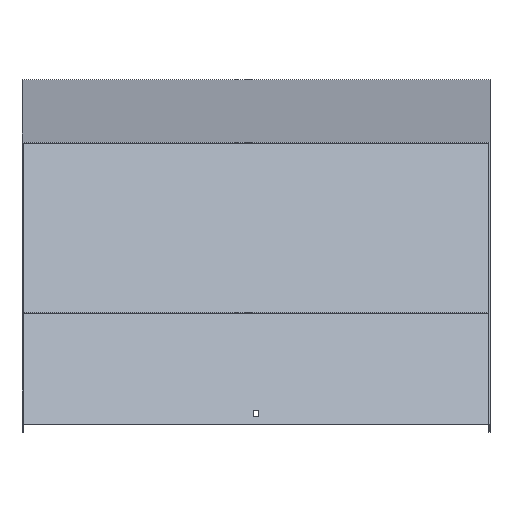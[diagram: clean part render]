
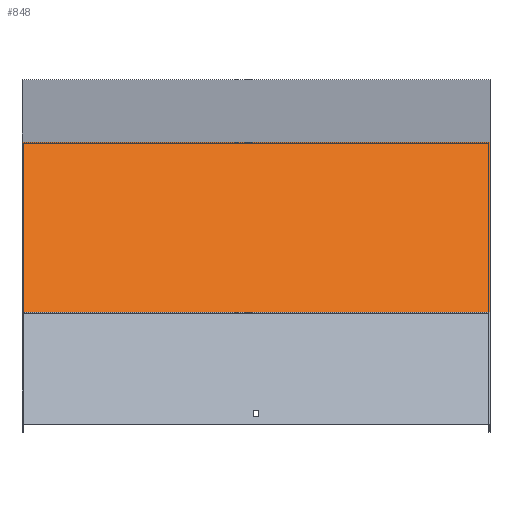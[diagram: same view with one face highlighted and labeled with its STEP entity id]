
A CAD part, top view. The second image highlights one B-rep face of the part: STEP entity #848.
In plain terms, the highlighted planar face has unit normal (0, 0.707, 0.707).
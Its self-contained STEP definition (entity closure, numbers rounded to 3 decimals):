
#23 = DIRECTION ( 'NONE',  ( 0., -0.707, -0.707 ) ) ;
#24 = VERTEX_POINT ( 'NONE', #649 ) ;
#76 = VECTOR ( 'NONE', #738, 1000. ) ;
#99 = PLANE ( 'NONE',  #507 ) ;
#140 = DIRECTION ( 'NONE',  ( -1., 0., 0. ) ) ;
#164 = EDGE_CURVE ( 'NONE', #836, #971, #509, .T. ) ;
#201 = ORIENTED_EDGE ( 'NONE', *, *, #458, .F. ) ;
#227 = ORIENTED_EDGE ( 'NONE', *, *, #962, .T. ) ;
#230 = VERTEX_POINT ( 'NONE', #371 ) ;
#266 = LINE ( 'NONE', #574, #573 ) ;
#296 = CARTESIAN_POINT ( 'NONE',  ( 301.5, -64.28, 470.818 ) ) ;
#321 = VECTOR ( 'NONE', #140, 1000. ) ;
#371 = CARTESIAN_POINT ( 'NONE',  ( -301.5, -60.491, 467.028 ) ) ;
#436 = CARTESIAN_POINT ( 'NONE',  ( 301.5, -280.395, 686.933 ) ) ;
#440 = LINE ( 'NONE', #296, #460 ) ;
#454 = EDGE_CURVE ( 'NONE', #24, #230, #624, .T. ) ;
#458 = EDGE_CURVE ( 'NONE', #24, #836, #440, .T. ) ;
#460 = VECTOR ( 'NONE', #747, 1000. ) ;
#507 = AXIS2_PLACEMENT_3D ( 'NONE', #703, #23, #847 ) ;
#509 = LINE ( 'NONE', #436, #321 ) ;
#562 = CARTESIAN_POINT ( 'NONE',  ( -301.5, -280.395, 686.933 ) ) ;
#566 = CARTESIAN_POINT ( 'NONE',  ( 301.5, -60.491, 467.028 ) ) ;
#573 = VECTOR ( 'NONE', #658, 1000. ) ;
#574 = CARTESIAN_POINT ( 'NONE',  ( -301.5, -64.28, 470.818 ) ) ;
#624 = LINE ( 'NONE', #566, #76 ) ;
#649 = CARTESIAN_POINT ( 'NONE',  ( 301.5, -60.491, 467.028 ) ) ;
#658 = DIRECTION ( 'NONE',  ( 0., -0.707, 0.707 ) ) ;
#699 = EDGE_LOOP ( 'NONE', ( #227, #967, #201, #869 ) ) ;
#703 = CARTESIAN_POINT ( 'NONE',  ( 301.5, -64.28, 470.818 ) ) ;
#738 = DIRECTION ( 'NONE',  ( -1., 0., 0. ) ) ;
#747 = DIRECTION ( 'NONE',  ( 0., -0.707, 0.707 ) ) ;
#774 = FACE_OUTER_BOUND ( 'NONE', #699, .T. ) ;
#836 = VERTEX_POINT ( 'NONE', #929 ) ;
#847 = DIRECTION ( 'NONE',  ( 0., 0.707, -0.707 ) ) ;
#848 = ADVANCED_FACE ( 'NONE', ( #774 ), #99, .F. ) ;
#869 = ORIENTED_EDGE ( 'NONE', *, *, #454, .T. ) ;
#929 = CARTESIAN_POINT ( 'NONE',  ( 301.5, -280.395, 686.933 ) ) ;
#962 = EDGE_CURVE ( 'NONE', #230, #971, #266, .T. ) ;
#967 = ORIENTED_EDGE ( 'NONE', *, *, #164, .F. ) ;
#971 = VERTEX_POINT ( 'NONE', #562 ) ;
